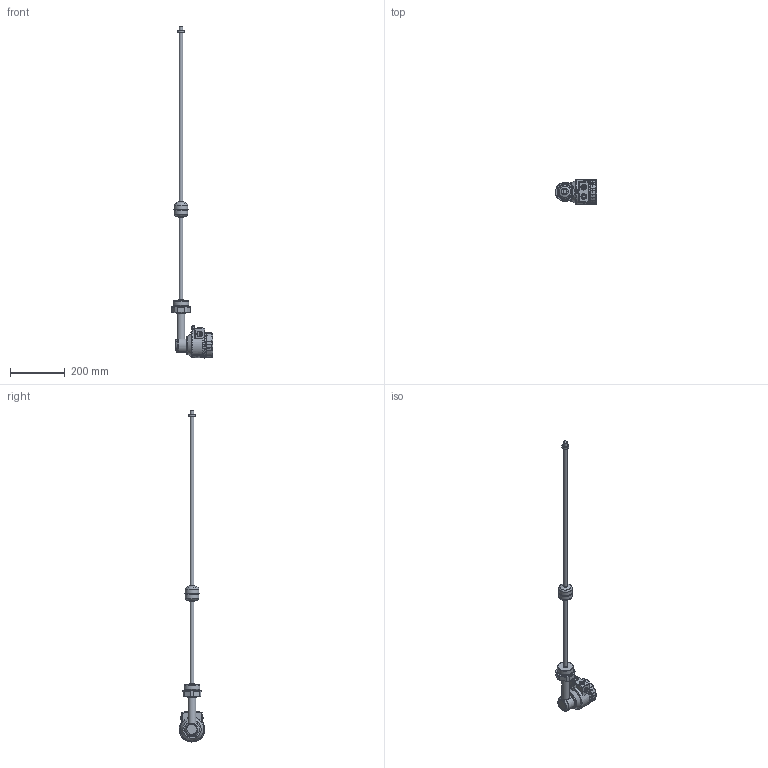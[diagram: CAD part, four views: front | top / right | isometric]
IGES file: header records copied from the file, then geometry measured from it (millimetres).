
Global section: file name: M_Mű_Bszer_2col,; native system: Autodesk Inventor 2015; preprocessor: unknown; author: aantal; date: 20150306.111557; units: millimetre
Bounding box: 150.63 x 92.98 x 1211.8 mm (x, y, z)
Volume: 1212560.8 mm3; surface area: 173274.7 mm2
Topology: 15 solids, 15 shells, 1341 faces, 3351 edges, 2085 vertices
Faces by surface type: bspline 1341
